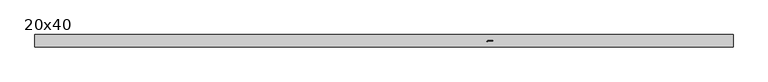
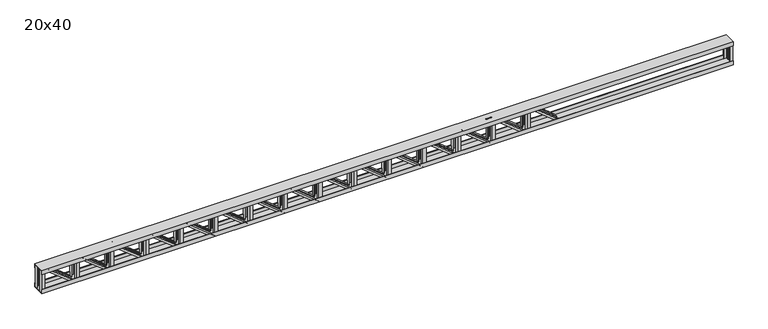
"""IFC4 building model written with IfcOpenShell, lengths in millimetres: beam geometry, Viga Treliçada - Igor Ramos.0001 : 20x40."""

from ifc_helpers import new_model, si_unit, frame, origin, place, context, project, spatial, polyline, outline, extrude, faceted_brep, source, transform, mapped, element, save


def beam_20x40_8779e05e(model_context):
    return source(origin(), model_context, "Body", "SolidModel", [
        extrude(outline(polyline([(580.3736978, 90.0), (630.3736978, 90.0), (630.3736978, 85.0), (585.3736978, 85.0), (585.3736978, 40.0), (580.3736978, 40.0), (580.3736978, 90.0)])), frame((0.0, 0.0, -190.0), z_axis=(0.0, 0.0, 1.0), x_axis=(1.0, 0.0, 0.0)), (0.0, 0.0, 1.0), 380.0),
        extrude(outline(polyline([(10.3741186, 90.0), (60.3741186, 90.0), (60.3741186, 85.0), (15.3741186, 85.0), (15.3741186, 40.0), (10.3741186, 40.0), (10.3741186, 90.0)])), frame((0.0, 0.0, -190.0), z_axis=(0.0, 0.0, 1.0), x_axis=(1.0, 0.0, 0.0)), (0.0, 0.0, 1.0), 380.0),
        extrude(outline(polyline([(-559.6254605, 90.0), (-509.6254605, 90.0), (-509.6254605, 85.0), (-554.6254605, 85.0), (-554.6254605, 40.0), (-559.6254605, 40.0), (-559.6254605, 90.0)])), frame((0.0, 0.0, -190.0), z_axis=(0.0, 0.0, 1.0), x_axis=(1.0, 0.0, 0.0)), (0.0, 0.0, 1.0), 380.0),
        extrude(outline(polyline([(-1129.6250396, 90.0), (-1079.6250396, 90.0), (-1079.6250396, 85.0), (-1124.6250396, 85.0), (-1124.6250396, 40.0), (-1129.6250396, 40.0), (-1129.6250396, 90.0)])), frame((0.0, 0.0, -190.0), z_axis=(0.0, 0.0, 1.0), x_axis=(1.0, 0.0, 0.0)), (0.0, 0.0, 1.0), 380.0),
        extrude(outline(polyline([(-1699.6246187, 90.0), (-1649.6246187, 90.0), (-1649.6246187, 85.0), (-1694.6246187, 85.0), (-1694.6246187, 40.0), (-1699.6246187, 40.0), (-1699.6246187, 90.0)])), frame((0.0, 0.0, -190.0), z_axis=(0.0, 0.0, 1.0), x_axis=(1.0, 0.0, 0.0)), (0.0, 0.0, 1.0), 380.0),
        extrude(outline(polyline([(-2269.6241978, 90.0), (-2219.6241978, 90.0), (-2219.6241978, 85.0), (-2264.6241978, 85.0), (-2264.6241978, 40.0), (-2269.6241978, 40.0), (-2269.6241978, 90.0)])), frame((0.0, 0.0, -190.0), z_axis=(0.0, 0.0, 1.0), x_axis=(1.0, 0.0, 0.0)), (0.0, 0.0, 1.0), 380.0),
        extrude(outline(polyline([(-2839.623777, 90.0), (-2789.623777, 90.0), (-2789.623777, 85.0), (-2834.623777, 85.0), (-2834.623777, 40.0), (-2839.623777, 40.0), (-2839.623777, 90.0)])), frame((0.0, 0.0, -190.0), z_axis=(0.0, 0.0, 1.0), x_axis=(1.0, 0.0, 0.0)), (0.0, 0.0, 1.0), 380.0),
        extrude(outline(polyline([(-3409.6233561, 90.0), (-3359.6233561, 90.0), (-3359.6233561, 85.0), (-3404.6233561, 85.0), (-3404.6233561, 40.0), (-3409.6233561, 40.0), (-3409.6233561, 90.0)])), frame((0.0, 0.0, -190.0), z_axis=(0.0, 0.0, 1.0), x_axis=(1.0, 0.0, 0.0)), (0.0, 0.0, 1.0), 380.0),
        extrude(outline(polyline([(-3979.6229352, 90.0), (-3929.6229352, 90.0), (-3929.6229352, 85.0), (-3974.6229352, 85.0), (-3974.6229352, 40.0), (-3979.6229352, 40.0), (-3979.6229352, 90.0)])), frame((0.0, 0.0, -190.0), z_axis=(0.0, 0.0, 1.0), x_axis=(1.0, 0.0, 0.0)), (0.0, 0.0, 1.0), 380.0),
        extrude(outline(polyline([(-4549.6225143, 90.0), (-4499.6225143, 90.0), (-4499.6225143, 85.0), (-4544.6225143, 85.0), (-4544.6225143, 40.0), (-4549.6225143, 40.0), (-4549.6225143, 90.0)])), frame((0.0, 0.0, -190.0), z_axis=(0.0, 0.0, 1.0), x_axis=(1.0, 0.0, 0.0)), (0.0, 0.0, 1.0), 380.0),
        extrude(outline(polyline([(580.3736978, -90.0), (580.3736978, -40.0), (585.3736978, -40.0), (585.3736978, -85.0), (630.3736978, -85.0), (630.3736978, -90.0), (580.3736978, -90.0)])), frame((0.0, 0.0, -190.0), z_axis=(0.0, 0.0, 1.0), x_axis=(1.0, 0.0, 0.0)), (0.0, 0.0, 1.0), 380.0),
        extrude(outline(polyline([(10.3741186, -90.0), (10.3741186, -40.0), (15.3741186, -40.0), (15.3741186, -85.0), (60.3741186, -85.0), (60.3741186, -90.0), (10.3741186, -90.0)])), frame((0.0, 0.0, -190.0), z_axis=(0.0, 0.0, 1.0), x_axis=(1.0, 0.0, 0.0)), (0.0, 0.0, 1.0), 380.0),
        extrude(outline(polyline([(-559.6254605, -90.0), (-559.6254605, -40.0), (-554.6254605, -40.0), (-554.6254605, -85.0), (-509.6254605, -85.0), (-509.6254605, -90.0), (-559.6254605, -90.0)])), frame((0.0, 0.0, -190.0), z_axis=(0.0, 0.0, 1.0), x_axis=(1.0, 0.0, 0.0)), (0.0, 0.0, 1.0), 380.0),
        extrude(outline(polyline([(-1129.6250396, -90.0), (-1129.6250396, -40.0), (-1124.6250396, -40.0), (-1124.6250396, -85.0), (-1079.6250396, -85.0), (-1079.6250396, -90.0), (-1129.6250396, -90.0)])), frame((0.0, 0.0, -190.0), z_axis=(0.0, 0.0, 1.0), x_axis=(1.0, 0.0, 0.0)), (0.0, 0.0, 1.0), 380.0),
        extrude(outline(polyline([(-1699.6246187, -90.0), (-1699.6246187, -40.0), (-1694.6246187, -40.0), (-1694.6246187, -85.0), (-1649.6246187, -85.0), (-1649.6246187, -90.0), (-1699.6246187, -90.0)])), frame((0.0, 0.0, -190.0), z_axis=(0.0, 0.0, 1.0), x_axis=(1.0, 0.0, 0.0)), (0.0, 0.0, 1.0), 380.0),
        extrude(outline(polyline([(-2269.6241978, -90.0), (-2269.6241978, -40.0), (-2264.6241978, -40.0), (-2264.6241978, -85.0), (-2219.6241978, -85.0), (-2219.6241978, -90.0), (-2269.6241978, -90.0)])), frame((0.0, 0.0, -190.0), z_axis=(0.0, 0.0, 1.0), x_axis=(1.0, 0.0, 0.0)), (0.0, 0.0, 1.0), 380.0),
        extrude(outline(polyline([(-2839.623777, -90.0), (-2839.623777, -40.0), (-2834.623777, -40.0), (-2834.623777, -85.0), (-2789.623777, -85.0), (-2789.623777, -90.0), (-2839.623777, -90.0)])), frame((0.0, 0.0, -190.0), z_axis=(0.0, 0.0, 1.0), x_axis=(1.0, 0.0, 0.0)), (0.0, 0.0, 1.0), 380.0),
        extrude(outline(polyline([(-3409.6233561, -90.0), (-3409.6233561, -40.0), (-3404.6233561, -40.0), (-3404.6233561, -85.0), (-3359.6233561, -85.0), (-3359.6233561, -90.0), (-3409.6233561, -90.0)])), frame((0.0, 0.0, -190.0), z_axis=(0.0, 0.0, 1.0), x_axis=(1.0, 0.0, 0.0)), (0.0, 0.0, 1.0), 380.0),
        extrude(outline(polyline([(-3979.6229352, -90.0), (-3979.6229352, -40.0), (-3974.6229352, -40.0), (-3974.6229352, -85.0), (-3929.6229352, -85.0), (-3929.6229352, -90.0), (-3979.6229352, -90.0)])), frame((0.0, 0.0, -190.0), z_axis=(0.0, 0.0, 1.0), x_axis=(1.0, 0.0, 0.0)), (0.0, 0.0, 1.0), 380.0),
        extrude(outline(polyline([(-4549.6225143, -90.0), (-4549.6225143, -40.0), (-4544.6225143, -40.0), (-4544.6225143, -85.0), (-4499.6225143, -85.0), (-4499.6225143, -90.0), (-4549.6225143, -90.0)])), frame((0.0, 0.0, -190.0), z_axis=(0.0, 0.0, 1.0), x_axis=(1.0, 0.0, 0.0)), (0.0, 0.0, 1.0), 380.0),
        faceted_brep([(1100.3732769, -90.0, -190.0), (1100.3732769, -85.0, -190.0), (1145.3732769, -85.0, -190.0), (1145.3732769, -40.0, -190.0), (1150.3732769, -40.0, -190.0), (1150.3732769, -90.0, -190.0), (630.3736978, -90.0, 190.0), (680.3736978, -90.0, 190.0), (680.3736978, -40.0, 190.0), (675.3736978, -40.0, 190.0), (675.3736978, -85.0, 190.0), (630.3736978, -85.0, 190.0)], [[[0, 1, 2, 3, 4, 5]], [[6, 7, 8, 9, 10, 11]], [[6, 11, 1, 0]], [[11, 10, 2, 1]], [[10, 9, 3, 2]], [[9, 8, 4, 3]], [[8, 7, 5, 4]], [[7, 6, 0, 5]]]),
        faceted_brep([(530.3736978, -90.0, -190.0), (530.3736978, -85.0, -190.0), (575.3736978, -85.0, -190.0), (575.3736978, -40.0, -190.0), (580.3736978, -40.0, -190.0), (580.3736978, -90.0, -190.0), (60.3741186, -90.0, 190.0), (110.3741186, -90.0, 190.0), (110.3741186, -40.0, 190.0), (105.3741186, -40.0, 190.0), (105.3741186, -85.0, 190.0), (60.3741186, -85.0, 190.0)], [[[0, 1, 2, 3, 4, 5]], [[6, 7, 8, 9, 10, 11]], [[6, 11, 1, 0]], [[11, 10, 2, 1]], [[10, 9, 3, 2]], [[9, 8, 4, 3]], [[8, 7, 5, 4]], [[7, 6, 0, 5]]]),
        faceted_brep([(-39.6258814, -90.0, -190.0), (-39.6258814, -85.0, -190.0), (5.3741186, -85.0, -190.0), (5.3741186, -40.0, -190.0), (10.3741186, -40.0, -190.0), (10.3741186, -90.0, -190.0), (-509.6254605, -90.0, 190.0), (-459.6254605, -90.0, 190.0), (-459.6254605, -40.0, 190.0), (-464.6254605, -40.0, 190.0), (-464.6254605, -85.0, 190.0), (-509.6254605, -85.0, 190.0)], [[[0, 1, 2, 3, 4, 5]], [[6, 7, 8, 9, 10, 11]], [[6, 11, 1, 0]], [[11, 10, 2, 1]], [[10, 9, 3, 2]], [[9, 8, 4, 3]], [[8, 7, 5, 4]], [[7, 6, 0, 5]]]),
        faceted_brep([(-609.6254605, -90.0, -190.0), (-609.6254605, -85.0, -190.0), (-564.6254605, -85.0, -190.0), (-564.6254605, -40.0, -190.0), (-559.6254605, -40.0, -190.0), (-559.6254605, -90.0, -190.0), (-1079.6250396, -90.0, 190.0), (-1029.6250396, -90.0, 190.0), (-1029.6250396, -40.0, 190.0), (-1034.6250396, -40.0, 190.0), (-1034.6250396, -85.0, 190.0), (-1079.6250396, -85.0, 190.0)], [[[0, 1, 2, 3, 4, 5]], [[6, 7, 8, 9, 10, 11]], [[6, 11, 1, 0]], [[11, 10, 2, 1]], [[10, 9, 3, 2]], [[9, 8, 4, 3]], [[8, 7, 5, 4]], [[7, 6, 0, 5]]]),
        faceted_brep([(-1179.6250396, -90.0, -190.0), (-1179.6250396, -85.0, -190.0), (-1134.6250396, -85.0, -190.0), (-1134.6250396, -40.0, -190.0), (-1129.6250396, -40.0, -190.0), (-1129.6250396, -90.0, -190.0), (-1649.6246187, -90.0, 190.0), (-1599.6246187, -90.0, 190.0), (-1599.6246187, -40.0, 190.0), (-1604.6246187, -40.0, 190.0), (-1604.6246187, -85.0, 190.0), (-1649.6246187, -85.0, 190.0)], [[[0, 1, 2, 3, 4, 5]], [[6, 7, 8, 9, 10, 11]], [[6, 11, 1, 0]], [[11, 10, 2, 1]], [[10, 9, 3, 2]], [[9, 8, 4, 3]], [[8, 7, 5, 4]], [[7, 6, 0, 5]]]),
        faceted_brep([(-1749.6246187, -90.0, -190.0), (-1749.6246187, -85.0, -190.0), (-1704.6246187, -85.0, -190.0), (-1704.6246187, -40.0, -190.0), (-1699.6246187, -40.0, -190.0), (-1699.6246187, -90.0, -190.0), (-2219.6241978, -90.0, 190.0), (-2169.6241978, -90.0, 190.0), (-2169.6241978, -40.0, 190.0), (-2174.6241978, -40.0, 190.0), (-2174.6241978, -85.0, 190.0), (-2219.6241978, -85.0, 190.0)], [[[0, 1, 2, 3, 4, 5]], [[6, 7, 8, 9, 10, 11]], [[6, 11, 1, 0]], [[11, 10, 2, 1]], [[10, 9, 3, 2]], [[9, 8, 4, 3]], [[8, 7, 5, 4]], [[7, 6, 0, 5]]]),
        faceted_brep([(-2319.6241978, -90.0, -190.0), (-2319.6241978, -85.0, -190.0), (-2274.6241978, -85.0, -190.0), (-2274.6241978, -40.0, -190.0), (-2269.6241978, -40.0, -190.0), (-2269.6241978, -90.0, -190.0), (-2789.623777, -90.0, 190.0), (-2739.623777, -90.0, 190.0), (-2739.623777, -40.0, 190.0), (-2744.623777, -40.0, 190.0), (-2744.623777, -85.0, 190.0), (-2789.623777, -85.0, 190.0)], [[[0, 1, 2, 3, 4, 5]], [[6, 7, 8, 9, 10, 11]], [[6, 11, 1, 0]], [[11, 10, 2, 1]], [[10, 9, 3, 2]], [[9, 8, 4, 3]], [[8, 7, 5, 4]], [[7, 6, 0, 5]]]),
        faceted_brep([(-2889.623777, -90.0, -190.0), (-2889.623777, -85.0, -190.0), (-2844.623777, -85.0, -190.0), (-2844.623777, -40.0, -190.0), (-2839.623777, -40.0, -190.0), (-2839.623777, -90.0, -190.0), (-3359.6233561, -90.0, 190.0), (-3309.6233561, -90.0, 190.0), (-3309.6233561, -40.0, 190.0), (-3314.6233561, -40.0, 190.0), (-3314.6233561, -85.0, 190.0), (-3359.6233561, -85.0, 190.0)], [[[0, 1, 2, 3, 4, 5]], [[6, 7, 8, 9, 10, 11]], [[6, 11, 1, 0]], [[11, 10, 2, 1]], [[10, 9, 3, 2]], [[9, 8, 4, 3]], [[8, 7, 5, 4]], [[7, 6, 0, 5]]]),
        faceted_brep([(-3459.6233561, -90.0, -190.0), (-3459.6233561, -85.0, -190.0), (-3414.6233561, -85.0, -190.0), (-3414.6233561, -40.0, -190.0), (-3409.6233561, -40.0, -190.0), (-3409.6233561, -90.0, -190.0), (-3929.6229352, -90.0, 190.0), (-3879.6229352, -90.0, 190.0), (-3879.6229352, -40.0, 190.0), (-3884.6229352, -40.0, 190.0), (-3884.6229352, -85.0, 190.0), (-3929.6229352, -85.0, 190.0)], [[[0, 1, 2, 3, 4, 5]], [[6, 7, 8, 9, 10, 11]], [[6, 11, 1, 0]], [[11, 10, 2, 1]], [[10, 9, 3, 2]], [[9, 8, 4, 3]], [[8, 7, 5, 4]], [[7, 6, 0, 5]]]),
        faceted_brep([(-4029.6229352, -90.0, -190.0), (-4029.6229352, -85.0, -190.0), (-3984.6229352, -85.0, -190.0), (-3984.6229352, -40.0, -190.0), (-3979.6229352, -40.0, -190.0), (-3979.6229352, -90.0, -190.0), (-4499.6225143, -90.0, 190.0), (-4449.6225143, -90.0, 190.0), (-4449.6225143, -40.0, 190.0), (-4454.6225143, -40.0, 190.0), (-4454.6225143, -85.0, 190.0), (-4499.6225143, -85.0, 190.0)], [[[0, 1, 2, 3, 4, 5]], [[6, 7, 8, 9, 10, 11]], [[6, 11, 1, 0]], [[11, 10, 2, 1]], [[10, 9, 3, 2]], [[9, 8, 4, 3]], [[8, 7, 5, 4]], [[7, 6, 0, 5]]]),
        faceted_brep([(1100.3732769, 90.0, -190.0), (1150.3732769, 90.0, -190.0), (1150.3732769, 40.0, -190.0), (1145.3732769, 40.0, -190.0), (1145.3732769, 85.0, -190.0), (1100.3732769, 85.0, -190.0), (630.3736978, 90.0, 190.0), (630.3736978, 85.0, 190.0), (675.3736978, 85.0, 190.0), (675.3736978, 40.0, 190.0), (680.3736978, 40.0, 190.0), (680.3736978, 90.0, 190.0)], [[[0, 1, 2, 3, 4, 5]], [[6, 7, 8, 9, 10, 11]], [[6, 0, 5, 7]], [[7, 5, 4, 8]], [[8, 4, 3, 9]], [[9, 3, 2, 10]], [[10, 2, 1, 11]], [[11, 1, 0, 6]]]),
        faceted_brep([(530.3736978, 90.0, -190.0), (580.3736978, 90.0, -190.0), (580.3736978, 40.0, -190.0), (575.3736978, 40.0, -190.0), (575.3736978, 85.0, -190.0), (530.3736978, 85.0, -190.0), (60.3741186, 90.0, 190.0), (60.3741186, 85.0, 190.0), (105.3741186, 85.0, 190.0), (105.3741186, 40.0, 190.0), (110.3741186, 40.0, 190.0), (110.3741186, 90.0, 190.0)], [[[0, 1, 2, 3, 4, 5]], [[6, 7, 8, 9, 10, 11]], [[6, 0, 5, 7]], [[7, 5, 4, 8]], [[8, 4, 3, 9]], [[9, 3, 2, 10]], [[10, 2, 1, 11]], [[11, 1, 0, 6]]]),
        faceted_brep([(-39.6258814, 90.0, -190.0), (10.3741186, 90.0, -190.0), (10.3741186, 40.0, -190.0), (5.3741186, 40.0, -190.0), (5.3741186, 85.0, -190.0), (-39.6258814, 85.0, -190.0), (-509.6254605, 90.0, 190.0), (-509.6254605, 85.0, 190.0), (-464.6254605, 85.0, 190.0), (-464.6254605, 40.0, 190.0), (-459.6254605, 40.0, 190.0), (-459.6254605, 90.0, 190.0)], [[[0, 1, 2, 3, 4, 5]], [[6, 7, 8, 9, 10, 11]], [[6, 0, 5, 7]], [[7, 5, 4, 8]], [[8, 4, 3, 9]], [[9, 3, 2, 10]], [[10, 2, 1, 11]], [[11, 1, 0, 6]]]),
        faceted_brep([(-609.6254605, 90.0, -190.0), (-559.6254605, 90.0, -190.0), (-559.6254605, 40.0, -190.0), (-564.6254605, 40.0, -190.0), (-564.6254605, 85.0, -190.0), (-609.6254605, 85.0, -190.0), (-1079.6250396, 90.0, 190.0), (-1079.6250396, 85.0, 190.0), (-1034.6250396, 85.0, 190.0), (-1034.6250396, 40.0, 190.0), (-1029.6250396, 40.0, 190.0), (-1029.6250396, 90.0, 190.0)], [[[0, 1, 2, 3, 4, 5]], [[6, 7, 8, 9, 10, 11]], [[6, 0, 5, 7]], [[7, 5, 4, 8]], [[8, 4, 3, 9]], [[9, 3, 2, 10]], [[10, 2, 1, 11]], [[11, 1, 0, 6]]]),
        faceted_brep([(-1179.6250396, 90.0, -190.0), (-1129.6250396, 90.0, -190.0), (-1129.6250396, 40.0, -190.0), (-1134.6250396, 40.0, -190.0), (-1134.6250396, 85.0, -190.0), (-1179.6250396, 85.0, -190.0), (-1649.6246187, 90.0, 190.0), (-1649.6246187, 85.0, 190.0), (-1604.6246187, 85.0, 190.0), (-1604.6246187, 40.0, 190.0), (-1599.6246187, 40.0, 190.0), (-1599.6246187, 90.0, 190.0)], [[[0, 1, 2, 3, 4, 5]], [[6, 7, 8, 9, 10, 11]], [[6, 0, 5, 7]], [[7, 5, 4, 8]], [[8, 4, 3, 9]], [[9, 3, 2, 10]], [[10, 2, 1, 11]], [[11, 1, 0, 6]]]),
        faceted_brep([(-1749.6246187, 90.0, -190.0), (-1699.6246187, 90.0, -190.0), (-1699.6246187, 40.0, -190.0), (-1704.6246187, 40.0, -190.0), (-1704.6246187, 85.0, -190.0), (-1749.6246187, 85.0, -190.0), (-2219.6241978, 90.0, 190.0), (-2219.6241978, 85.0, 190.0), (-2174.6241978, 85.0, 190.0), (-2174.6241978, 40.0, 190.0), (-2169.6241978, 40.0, 190.0), (-2169.6241978, 90.0, 190.0)], [[[0, 1, 2, 3, 4, 5]], [[6, 7, 8, 9, 10, 11]], [[6, 0, 5, 7]], [[7, 5, 4, 8]], [[8, 4, 3, 9]], [[9, 3, 2, 10]], [[10, 2, 1, 11]], [[11, 1, 0, 6]]]),
        faceted_brep([(-2319.6241978, 90.0, -190.0), (-2269.6241978, 90.0, -190.0), (-2269.6241978, 40.0, -190.0), (-2274.6241978, 40.0, -190.0), (-2274.6241978, 85.0, -190.0), (-2319.6241978, 85.0, -190.0), (-2789.623777, 90.0, 190.0), (-2789.623777, 85.0, 190.0), (-2744.623777, 85.0, 190.0), (-2744.623777, 40.0, 190.0), (-2739.623777, 40.0, 190.0), (-2739.623777, 90.0, 190.0)], [[[0, 1, 2, 3, 4, 5]], [[6, 7, 8, 9, 10, 11]], [[6, 0, 5, 7]], [[7, 5, 4, 8]], [[8, 4, 3, 9]], [[9, 3, 2, 10]], [[10, 2, 1, 11]], [[11, 1, 0, 6]]]),
        faceted_brep([(-2889.623777, 90.0, -190.0), (-2839.623777, 90.0, -190.0), (-2839.623777, 40.0, -190.0), (-2844.623777, 40.0, -190.0), (-2844.623777, 85.0, -190.0), (-2889.623777, 85.0, -190.0), (-3359.6233561, 90.0, 190.0), (-3359.6233561, 85.0, 190.0), (-3314.6233561, 85.0, 190.0), (-3314.6233561, 40.0, 190.0), (-3309.6233561, 40.0, 190.0), (-3309.6233561, 90.0, 190.0)], [[[0, 1, 2, 3, 4, 5]], [[6, 7, 8, 9, 10, 11]], [[6, 0, 5, 7]], [[7, 5, 4, 8]], [[8, 4, 3, 9]], [[9, 3, 2, 10]], [[10, 2, 1, 11]], [[11, 1, 0, 6]]]),
        faceted_brep([(-3459.6233561, 90.0, -190.0), (-3409.6233561, 90.0, -190.0), (-3409.6233561, 40.0, -190.0), (-3414.6233561, 40.0, -190.0), (-3414.6233561, 85.0, -190.0), (-3459.6233561, 85.0, -190.0), (-3929.6229352, 90.0, 190.0), (-3929.6229352, 85.0, 190.0), (-3884.6229352, 85.0, 190.0), (-3884.6229352, 40.0, 190.0), (-3879.6229352, 40.0, 190.0), (-3879.6229352, 90.0, 190.0)], [[[0, 1, 2, 3, 4, 5]], [[6, 7, 8, 9, 10, 11]], [[6, 0, 5, 7]], [[7, 5, 4, 8]], [[8, 4, 3, 9]], [[9, 3, 2, 10]], [[10, 2, 1, 11]], [[11, 1, 0, 6]]]),
        faceted_brep([(-4029.6229352, 90.0, -190.0), (-3979.6229352, 90.0, -190.0), (-3979.6229352, 40.0, -190.0), (-3984.6229352, 40.0, -190.0), (-3984.6229352, 85.0, -190.0), (-4029.6229352, 85.0, -190.0), (-4499.6225143, 90.0, 190.0), (-4499.6225143, 85.0, 190.0), (-4454.6225143, 85.0, 190.0), (-4454.6225143, 40.0, 190.0), (-4449.6225143, 40.0, 190.0), (-4449.6225143, 90.0, 190.0)], [[[0, 1, 2, 3, 4, 5]], [[6, 7, 8, 9, 10, 11]], [[6, 0, 5, 7]], [[7, 5, 4, 8]], [[8, 4, 3, 9]], [[9, 3, 2, 10]], [[10, 2, 1, 11]], [[11, 1, 0, 6]]]),
        extrude(outline(polyline([(-5119.6220935, 90.0), (-5069.6220935, 90.0), (-5069.6220935, 85.0), (-5114.6220935, 85.0), (-5114.6220935, 40.0), (-5119.6220935, 40.0), (-5119.6220935, 90.0)])), frame((0.0, 0.0, -190.0), z_axis=(0.0, 0.0, 1.0), x_axis=(1.0, 0.0, 0.0)), (0.0, 0.0, 1.0), 380.0),
        extrude(outline(polyline([(-5689.6216726, 90.0), (-5639.6216726, 90.0), (-5639.6216726, 85.0), (-5684.6216726, 85.0), (-5684.6216726, 40.0), (-5689.6216726, 40.0), (-5689.6216726, 90.0)])), frame((0.0, 0.0, -190.0), z_axis=(0.0, 0.0, 1.0), x_axis=(1.0, 0.0, 0.0)), (0.0, 0.0, 1.0), 380.0),
        extrude(outline(polyline([(-5119.6220935, -90.0), (-5119.6220935, -40.0), (-5114.6220935, -40.0), (-5114.6220935, -85.0), (-5069.6220935, -85.0), (-5069.6220935, -90.0), (-5119.6220935, -90.0)])), frame((0.0, 0.0, -190.0), z_axis=(0.0, 0.0, 1.0), x_axis=(1.0, 0.0, 0.0)), (0.0, 0.0, 1.0), 380.0),
        extrude(outline(polyline([(-5689.6216726, -90.0), (-5689.6216726, -40.0), (-5684.6216726, -40.0), (-5684.6216726, -85.0), (-5639.6216726, -85.0), (-5639.6216726, -90.0), (-5689.6216726, -90.0)])), frame((0.0, 0.0, -190.0), z_axis=(0.0, 0.0, 1.0), x_axis=(1.0, 0.0, 0.0)), (0.0, 0.0, 1.0), 380.0),
        faceted_brep([(-4599.6225143, 90.0, -190.0), (-4549.6225143, 90.0, -190.0), (-4549.6225143, 40.0, -190.0), (-4554.6225143, 40.0, -190.0), (-4554.6225143, 85.0, -190.0), (-4599.6225143, 85.0, -190.0), (-5069.6220935, 90.0, 190.0), (-5069.6220935, 85.0, 190.0), (-5024.6220935, 85.0, 190.0), (-5024.6220935, 40.0, 190.0), (-5019.6220935, 40.0, 190.0), (-5019.6220935, 90.0, 190.0)], [[[0, 1, 2, 3, 4, 5]], [[6, 7, 8, 9, 10, 11]], [[6, 0, 5, 7]], [[7, 5, 4, 8]], [[8, 4, 3, 9]], [[9, 3, 2, 10]], [[10, 2, 1, 11]], [[11, 1, 0, 6]]]),
        faceted_brep([(-5169.6220935, 90.0, -190.0), (-5119.6220935, 90.0, -190.0), (-5119.6220935, 40.0, -190.0), (-5124.6220935, 40.0, -190.0), (-5124.6220935, 85.0, -190.0), (-5169.6220935, 85.0, -190.0), (-5639.6216726, 90.0, 190.0), (-5639.6216726, 85.0, 190.0), (-5594.6216726, 85.0, 190.0), (-5594.6216726, 40.0, 190.0), (-5589.6216726, 40.0, 190.0), (-5589.6216726, 90.0, 190.0)], [[[0, 1, 2, 3, 4, 5]], [[6, 7, 8, 9, 10, 11]], [[6, 0, 5, 7]], [[7, 5, 4, 8]], [[8, 4, 3, 9]], [[9, 3, 2, 10]], [[10, 2, 1, 11]], [[11, 1, 0, 6]]]),
        faceted_brep([(-5739.6216726, 90.0, -190.0), (-5689.6216726, 90.0, -190.0), (-5689.6216726, 40.0, -190.0), (-5694.6216726, 40.0, -190.0), (-5694.6216726, 85.0, -190.0), (-5739.6216726, 85.0, -190.0), (-6209.6212517, 90.0, 190.0), (-6209.6212517, 85.0, 190.0), (-6164.6212517, 85.0, 190.0), (-6164.6212517, 40.0, 190.0), (-6159.6212517, 40.0, 190.0), (-6159.6212517, 90.0, 190.0)], [[[0, 1, 2, 3, 4, 5]], [[6, 7, 8, 9, 10, 11]], [[6, 0, 5, 7]], [[7, 5, 4, 8]], [[8, 4, 3, 9]], [[9, 3, 2, 10]], [[10, 2, 1, 11]], [[11, 1, 0, 6]]]),
        faceted_brep([(-4599.6225143, -90.0, -190.0), (-4599.6225143, -85.0, -190.0), (-4554.6225143, -85.0, -190.0), (-4554.6225143, -40.0, -190.0), (-4549.6225143, -40.0, -190.0), (-4549.6225143, -90.0, -190.0), (-5069.6220935, -90.0, 190.0), (-5019.6220935, -90.0, 190.0), (-5019.6220935, -40.0, 190.0), (-5024.6220935, -40.0, 190.0), (-5024.6220935, -85.0, 190.0), (-5069.6220935, -85.0, 190.0)], [[[0, 1, 2, 3, 4, 5]], [[6, 7, 8, 9, 10, 11]], [[6, 11, 1, 0]], [[11, 10, 2, 1]], [[10, 9, 3, 2]], [[9, 8, 4, 3]], [[8, 7, 5, 4]], [[7, 6, 0, 5]]]),
        faceted_brep([(-5169.6220935, -90.0, -190.0), (-5169.6220935, -85.0, -190.0), (-5124.6220935, -85.0, -190.0), (-5124.6220935, -40.0, -190.0), (-5119.6220935, -40.0, -190.0), (-5119.6220935, -90.0, -190.0), (-5639.6216726, -90.0, 190.0), (-5589.6216726, -90.0, 190.0), (-5589.6216726, -40.0, 190.0), (-5594.6216726, -40.0, 190.0), (-5594.6216726, -85.0, 190.0), (-5639.6216726, -85.0, 190.0)], [[[0, 1, 2, 3, 4, 5]], [[6, 7, 8, 9, 10, 11]], [[6, 11, 1, 0]], [[11, 10, 2, 1]], [[10, 9, 3, 2]], [[9, 8, 4, 3]], [[8, 7, 5, 4]], [[7, 6, 0, 5]]]),
        faceted_brep([(-5739.6216726, -90.0, -190.0), (-5739.6216726, -85.0, -190.0), (-5694.6216726, -85.0, -190.0), (-5694.6216726, -40.0, -190.0), (-5689.6216726, -40.0, -190.0), (-5689.6216726, -90.0, -190.0), (-6209.6212517, -90.0, 190.0), (-6159.6212517, -90.0, 190.0), (-6159.6212517, -40.0, 190.0), (-6164.6212517, -40.0, 190.0), (-6164.6212517, -85.0, 190.0), (-6209.6212517, -85.0, 190.0)], [[[0, 1, 2, 3, 4, 5]], [[6, 7, 8, 9, 10, 11]], [[6, 11, 1, 0]], [[11, 10, 2, 1]], [[10, 9, 3, 2]], [[9, 8, 4, 3]], [[8, 7, 5, 4]], [[7, 6, 0, 5]]]),
        extrude(outline(polyline([(-6259.6212517, 90.0), (-6209.6212517, 90.0), (-6209.6212517, 85.0), (-6254.6212517, 85.0), (-6254.6212517, 40.0), (-6259.6212517, 40.0), (-6259.6212517, 90.0)])), frame((0.0, 0.0, -190.0), z_axis=(0.0, 0.0, 1.0), x_axis=(1.0, 0.0, 0.0)), (0.0, 0.0, 1.0), 380.0),
        extrude(outline(polyline([(-6259.6212517, -90.0), (-6259.6212517, -40.0), (-6254.6212517, -40.0), (-6254.6212517, -85.0), (-6209.6212517, -85.0), (-6209.6212517, -90.0), (-6259.6212517, -90.0)])), frame((0.0, 0.0, -190.0), z_axis=(0.0, 0.0, 1.0), x_axis=(1.0, 0.0, 0.0)), (0.0, 0.0, 1.0), 380.0),
        extrude(outline(polyline([(3962.20392, 90.0), (3962.20392, 40.0), (3957.20392, 40.0), (3957.20392, 85.0), (3912.20392, 85.0), (3912.20392, 90.0), (3962.20392, 90.0)])), frame((0.0, 0.0, -190.0), z_axis=(0.0, 0.0, 1.0), x_axis=(1.0, 0.0, 0.0)), (0.0, 0.0, 1.0), 380.0),
        extrude(outline(polyline([(3962.20392, -90.0), (3912.20392, -90.0), (3912.20392, -85.0), (3957.20392, -85.0), (3957.20392, -40.0), (3962.20392, -40.0), (3962.20392, -90.0)])), frame((0.0, 0.0, -190.0), z_axis=(0.0, 0.0, 1.0), x_axis=(1.0, 0.0, 0.0)), (0.0, 0.0, 1.0), 380.0),
        extrude(outline(polyline([(-6829.6208308, 90.0), (-6779.6208308, 90.0), (-6779.6208308, 85.0), (-6824.6208308, 85.0), (-6824.6208308, 40.0), (-6829.6208308, 40.0), (-6829.6208308, 90.0)])), frame((0.0, 0.0, -190.0), z_axis=(0.0, 0.0, 1.0), x_axis=(1.0, 0.0, 0.0)), (0.0, 0.0, 1.0), 380.0),
        extrude(outline(polyline([(-6829.6208308, -90.0), (-6829.6208308, -40.0), (-6824.6208308, -40.0), (-6824.6208308, -85.0), (-6779.6208308, -85.0), (-6779.6208308, -90.0), (-6829.6208308, -90.0)])), frame((0.0, 0.0, -190.0), z_axis=(0.0, 0.0, 1.0), x_axis=(1.0, 0.0, 0.0)), (0.0, 0.0, 1.0), 380.0),
        faceted_brep([(-6309.6212517, -90.0, -190.0), (-6309.6212517, -85.0, -190.0), (-6264.6212517, -85.0, -190.0), (-6264.6212517, -40.0, -190.0), (-6259.6212517, -40.0, -190.0), (-6259.6212517, -90.0, -190.0), (-6779.6208308, -90.0, 190.0), (-6729.6208308, -90.0, 190.0), (-6729.6208308, -40.0, 190.0), (-6734.6208308, -40.0, 190.0), (-6734.6208308, -85.0, 190.0), (-6779.6208308, -85.0, 190.0)], [[[0, 1, 2, 3, 4, 5]], [[6, 7, 8, 9, 10, 11]], [[6, 11, 1, 0]], [[11, 10, 2, 1]], [[10, 9, 3, 2]], [[9, 8, 4, 3]], [[8, 7, 5, 4]], [[7, 6, 0, 5]]]),
        faceted_brep([(-6309.6212517, 90.0, -190.0), (-6259.6212517, 90.0, -190.0), (-6259.6212517, 40.0, -190.0), (-6264.6212517, 40.0, -190.0), (-6264.6212517, 85.0, -190.0), (-6309.6212517, 85.0, -190.0), (-6779.6208308, 90.0, 190.0), (-6779.6208308, 85.0, 190.0), (-6734.6208308, 85.0, 190.0), (-6734.6208308, 40.0, 190.0), (-6729.6208308, 40.0, 190.0), (-6729.6208308, 90.0, 190.0)], [[[0, 1, 2, 3, 4, 5]], [[6, 7, 8, 9, 10, 11]], [[6, 0, 5, 7]], [[7, 5, 4, 8]], [[8, 4, 3, 9]], [[9, 3, 2, 10]], [[10, 2, 1, 11]], [[11, 1, 0, 6]]]),
        faceted_brep([(-6879.6208308, 90.0, -190.0), (-6829.6208308, 90.0, -190.0), (-6829.6208308, 40.0, -190.0), (-6834.6208308, 40.0, -190.0), (-6834.6208308, 85.0, -190.0), (-6879.6208308, 85.0, -190.0), (-7349.6204099, 90.0, 190.0), (-7349.6204099, 85.0, 190.0), (-7304.6204099, 85.0, 190.0), (-7304.6204099, 40.0, 190.0), (-7299.6204099, 40.0, 190.0), (-7299.6204099, 90.0, 190.0)], [[[0, 1, 2, 3, 4, 5]], [[6, 7, 8, 9, 10, 11]], [[6, 0, 5, 7]], [[7, 5, 4, 8]], [[8, 4, 3, 9]], [[9, 3, 2, 10]], [[10, 2, 1, 11]], [[11, 1, 0, 6]]]),
        extrude(outline(polyline([(-7399.6204099, 90.0), (-7349.6204099, 90.0), (-7349.6204099, 85.0), (-7394.6204099, 85.0), (-7394.6204099, 40.0), (-7399.6204099, 40.0), (-7399.6204099, 90.0)])), frame((0.0, 0.0, -190.0), z_axis=(0.0, 0.0, 1.0), x_axis=(1.0, 0.0, 0.0)), (0.0, 0.0, 1.0), 380.0),
        extrude(outline(polyline([(-7399.6204099, -90.0), (-7399.6204099, -40.0), (-7394.6204099, -40.0), (-7394.6204099, -85.0), (-7349.6204099, -85.0), (-7349.6204099, -90.0), (-7399.6204099, -90.0)])), frame((0.0, 0.0, -190.0), z_axis=(0.0, 0.0, 1.0), x_axis=(1.0, 0.0, 0.0)), (0.0, 0.0, 1.0), 380.0),
        faceted_brep([(-6879.6208308, -90.0, -190.0), (-6879.6208308, -85.0, -190.0), (-6834.6208308, -85.0, -190.0), (-6834.6208308, -40.0, -190.0), (-6829.6208308, -40.0, -190.0), (-6829.6208308, -90.0, -190.0), (-7349.6204099, -90.0, 190.0), (-7299.6204099, -90.0, 190.0), (-7299.6204099, -40.0, 190.0), (-7304.6204099, -40.0, 190.0), (-7304.6204099, -85.0, 190.0), (-7349.6204099, -85.0, 190.0)], [[[0, 1, 2, 3, 4, 5]], [[6, 7, 8, 9, 10, 11]], [[6, 11, 1, 0]], [[11, 10, 2, 1]], [[10, 9, 3, 2]], [[9, 8, 4, 3]], [[8, 7, 5, 4]], [[7, 6, 0, 5]]]),
        extrude(outline(polyline([(-100.0, 200.0), (100.0, 200.0), (100.0, 130.0), (90.0, 130.0), (90.0, 190.0), (-90.0, 190.0), (-90.0, 130.0), (-100.0, 130.0), (-100.0, 200.0)])), frame((-7399.6204099, 0.0, 0.0), z_axis=(1.0, 0.0, 0.0), x_axis=(0.0, 1.0, 0.0)), (0.0, 0.0, 1.0), 11361.8243299),
        extrude(outline(polyline([(100.0, -130.0), (100.0, -200.0), (-100.0, -200.0), (-100.0, -130.0), (-90.0, -130.0), (-90.0, -190.0), (90.0, -190.0), (90.0, -130.0), (100.0, -130.0)])), frame((-7399.6204099, 0.0, 0.0), z_axis=(1.0, 0.0, 0.0), x_axis=(0.0, 1.0, 0.0)), (0.0, 0.0, 1.0), 11361.8243299),
        extrude(outline(polyline([(-40.6337926, -4.4248778), (-42.2708675, -4.6848478), (-43.3708347, -5.0), (-44.5480571, -4.6394756), (-45.476346, -3.5309246), (-45.8331915, -1.8877183), (-45.2801422, 0.3195737), (-43.9042636, 1.9799477), (-42.3064294, 2.5342233), (-41.1807105, 2.219071), (-40.2561005, 1.258899), (-40.0255611, 2.3772603), (-38.7698572, 2.3772603), (-39.809737, -2.2286223), (-40.0255611, -3.290575), (-38.5859162, -3.3469836), (-37.3437013, -1.9551634), (-36.8863014, -0.1513153), (-37.4749126, 1.8744882), (-39.2321622, 3.3815781), (-41.8134676, 3.9468901), (-44.7589761, 3.2295202), (-46.8264729, 1.1730599), (-47.5597843, -1.6964197), (-46.8338305, -4.461666), (-44.7332243, -6.1735436), (-41.6883877, -6.7265928), (-38.6938283, -6.1772224), (-36.8863014, -4.843037), (-35.6305975, -4.843037), (-36.8188564, -6.3366379), (-38.8238132, -7.539612), (-41.6246215, -7.9822967), (-44.4070356, -7.5911155), (-46.5787657, -6.4163457), (-47.9301189, -4.6100451), (-48.5015622, -1.8141419), (-47.8197543, 1.3717162), (-45.462857, 4.215444), (-41.757059, 5.202594), (-38.7257114, 4.5109758), (-36.6042585, 2.4483841), (-35.9445235, -0.1145271), (-37.3130445, -3.6241213), (-40.6337926, -4.4248778)]), holes=[polyline([(-44.5774876, -1.9073387), (-44.1372555, -3.2611444), (-43.1280326, -3.7442961), (-42.3272761, -3.5309246), (-41.5240671, -2.8981675), (-40.8974414, -1.8337623), (-40.653413, -0.5388177), (-41.110813, 0.8014991), (-42.2254954, 1.2785194), (-43.0421934, 1.0712792), (-43.7840888, 0.4066391), (-44.3604373, -0.7055908), (-44.5774876, -1.9073387)])]), frame((0.0, 0.0, 200.0), z_axis=(0.0, 0.0, 1.0), x_axis=(1.0, 0.0, 0.0)), (0.0, 0.0, 1.0), 1.0),
        extrude(outline(polyline([(-34.2179306, 3.7899271), (-34.2179306, 5.045631), (-32.9622268, 5.045631), (-32.9622268, 3.7899271), (-34.2179306, 3.7899271)])), frame((0.0, 0.0, 200.0), z_axis=(0.0, 0.0, 1.0), x_axis=(1.0, 0.0, 0.0)), (0.0, 0.0, 1.0), 1.0),
        extrude(outline(polyline([(-34.2179306, -5.0), (-34.2179306, 2.3772603), (-32.9622268, 2.3772603), (-32.9622268, -5.0), (-34.2179306, -5.0)])), frame((0.0, 0.0, 200.0), z_axis=(0.0, 0.0, 1.0), x_axis=(1.0, 0.0, 0.0)), (0.0, 0.0, 1.0), 1.0),
        extrude(outline(polyline([(-31.3925969, -5.6278519), (-30.136893, -5.7848149), (-28.5108546, -6.7265928), (-27.2257202, -6.4102143), (-26.6125835, -5.5223924), (-26.5267444, -4.0582221), (-28.4887817, -5.0), (-30.7488034, -3.9037117), (-31.5495599, -1.2745817), (-31.1902618, 0.6715141), (-30.1503821, 2.048619), (-28.5500954, 2.5342233), (-26.5267444, 1.4354824), (-26.5267444, 2.3772603), (-25.2710405, 2.3772603), (-25.2710405, -3.9920033), (-25.6143971, -6.431061), (-26.7021015, -7.5653638), (-28.5353801, -7.9822967), (-30.6237236, -7.3949118), (-31.3925969, -5.6278519)]), holes=[polyline([(-30.293856, -1.1887425), (-29.7579746, -3.1323857), (-28.4127528, -3.7442961), (-27.0699835, -3.1360646), (-26.5267444, -1.2255307), (-27.085925, 0.6469886), (-28.4323731, 1.2785194), (-29.7506169, 0.6567988), (-30.293856, -1.1887425)])]), frame((0.0, 0.0, 200.0), z_axis=(0.0, 0.0, 1.0), x_axis=(1.0, 0.0, 0.0)), (0.0, 0.0, 1.0), 1.0),
        extrude(outline(polyline([(-23.7014107, -1.3113699), (-22.6149325, 1.7175252), (-20.4027355, 2.5342233), (-18.0298966, 1.5397156), (-17.1089653, -1.2083629), (-17.5160881, -3.4426329), (-18.7018944, -4.7069207), (-20.4027355, -5.156963), (-22.7902896, -4.1661341), (-23.7014107, -1.3113699)]), holes=[polyline([(-22.4457068, -1.3089173), (-21.8644532, -3.2550131), (-20.4027355, -3.9012591), (-18.9459228, -3.2513342), (-18.3646692, -1.2696766), (-18.9496016, 0.6322733), (-20.4027355, 1.2785194), (-21.8644532, 0.6347259), (-22.4457068, -1.3089173)])]), frame((0.0, 0.0, 200.0), z_axis=(0.0, 0.0, 1.0), x_axis=(1.0, 0.0, 0.0)), (0.0, 0.0, 1.0), 1.0),
        extrude(outline(polyline([(-15.6962985, -5.0), (-15.6962985, 2.3772603), (-14.5975576, 2.3772603), (-14.5975576, 1.285877), (-13.8176477, 2.2914211), (-13.0328328, 2.5342233), (-11.7722238, 2.1467209), (-12.1916093, 1.021002), (-13.0745261, 1.2785194), (-14.2370332, 0.3440991), (-14.4405946, -1.1225238), (-14.4405946, -5.0), (-15.6962985, -5.0)])), frame((0.0, 0.0, 200.0), z_axis=(0.0, 0.0, 1.0), x_axis=(1.0, 0.0, 0.0)), (0.0, 0.0, 1.0), 1.0),
        extrude(outline(polyline([(-10.9874089, -5.0), (-10.9874089, 2.3772603), (-9.888668, 2.3772603), (-9.888668, 1.285877), (-9.1087582, 2.2914211), (-8.3239433, 2.5342233), (-7.0633343, 2.1467209), (-7.4827198, 1.021002), (-8.3656366, 1.2785194), (-9.5281437, 0.3440991), (-9.731705, -1.1225238), (-9.731705, -5.0), (-10.9874089, -5.0)])), frame((0.0, 0.0, 200.0), z_axis=(0.0, 0.0, 1.0), x_axis=(1.0, 0.0, 0.0)), (0.0, 0.0, 1.0), 1.0),
        extrude(outline(polyline([(-1.5696298, -4.0582221), (-2.7873193, -4.9092558), (-4.1325411, -5.156963), (-5.9560095, -4.5609942), (-6.5924454, -3.0379627), (-6.3520958, -2.0446813), (-5.720565, -1.3236326), (-4.8413271, -0.9116048), (-3.7548489, -0.7227587), (-1.5769875, -0.2911105), (-1.9154389, 0.9155425), (-3.3035803, 1.2785194), (-4.5739995, 1.0369435), (-5.1797785, 0.1797785), (-6.4354824, 0.3367415), (-5.8922433, 1.5630148), (-4.7984075, 2.281611), (-3.1417122, 2.5342233), (-1.6199071, 2.3110415), (-0.7602895, 1.7506346), (-0.3752396, 0.8983747), (-0.313926, -0.2003662), (-0.313926, -1.7626384), (-0.2501598, -3.9441787), (0.0, -5.0), (-1.2557039, -5.0), (-1.5696298, -4.0582221)]), holes=[polyline([(-1.5733087, -1.724624), (-3.5954334, -1.9318642), (-4.6757802, -2.1354255), (-3.8652135, -3.9012591), (-2.5947943, -3.6008221), (-1.7756438, -2.8736421), (-1.5733087, -1.724624)])]), frame((0.0, 0.0, 200.0), z_axis=(0.0, 0.0, 1.0), x_axis=(1.0, 0.0, 0.0)), (0.0, 0.0, 1.0), 1.0),
        extrude(outline(polyline([(1.4126669, -5.0), (1.4126669, 2.3772603), (2.6683707, 2.3772603), (2.6683707, 1.1632497), (3.5316672, 2.1577574), (4.760393, 2.5342233), (6.0185494, 2.1503997), (6.7101676, 1.074958), (8.9272697, 2.5342233), (10.5692497, 1.927218), (11.1443719, 0.0571512), (11.1443719, -5.0), (9.888668, -5.0), (9.888668, -0.4824091), (9.7721721, 0.5660546), (7.3981069, 0.7757473), (6.9063713, -0.8355758), (6.9063713, -5.0), (5.6506674, -5.0), (5.6506674, -0.3426139), (5.3600407, 0.8738492), (4.4072263, 1.2785194), (3.4777111, 1.0087393), (2.8596694, 0.2190192), (2.6683707, -1.2794868), (2.6683707, -5.0), (1.4126669, -5.0)])), frame((0.0, 0.0, 200.0), z_axis=(0.0, 0.0, 1.0), x_axis=(1.0, 0.0, 0.0)), (0.0, 0.0, 1.0), 1.0),
        extrude(outline(polyline([(12.7140018, -1.3113699), (13.8004799, 1.7175252), (16.012677, 2.5342233), (18.3855158, 1.5397156), (19.3064471, -1.2083629), (18.8993244, -3.4426329), (17.7135181, -4.7069207), (16.012677, -5.156963), (13.6251228, -4.1661341), (12.7140018, -1.3113699)]), holes=[polyline([(13.9697056, -1.3089173), (14.5509592, -3.2550131), (16.012677, -3.9012591), (17.4694897, -3.2513342), (18.0507432, -1.2696766), (17.4658109, 0.6322733), (16.012677, 1.2785194), (14.5509592, 0.6347259), (13.9697056, -1.3089173)])]), frame((0.0, 0.0, 200.0), z_axis=(0.0, 0.0, 1.0), x_axis=(1.0, 0.0, 0.0)), (0.0, 0.0, 1.0), 1.0),
        extrude(outline(polyline([(20.248225, -2.8025182), (21.5039289, -2.6455552), (22.0851824, -3.577523), (23.4169153, -3.9012591), (24.6971446, -3.604501), (25.1140775, -2.9079777), (23.4022, -1.9858202), (21.5112865, -1.3714573), (20.6860046, -0.6540874), (20.405188, 0.3588144), (20.6308223, 1.2944609), (21.2464115, 2.0093783), (22.0447154, 2.3809391), (23.1250622, 2.5342233), (24.6529988, 2.2877423), (25.6242072, 1.6206496), (26.0558554, 0.4937045), (24.8001516, 0.3367415), (24.3280363, 1.0295859), (23.2231641, 1.2785194), (22.0214162, 1.0406224), (23.3605067, -0.423548), (25.2035955, -1.0146117), (26.0595343, -1.684157), (26.3697814, -2.7755402), (26.0055782, -3.9772881), (24.954662, -4.8491684), (23.3997474, -5.156963), (21.2096233, -4.5634467), (20.248225, -2.8025182)])), frame((0.0, 0.0, 200.0), z_axis=(0.0, 0.0, 1.0), x_axis=(1.0, 0.0, 0.0)), (0.0, 0.0, 1.0), 1.0),
        extrude(outline(polyline([(29.0381522, -5.0), (27.7824483, -5.0), (27.7824483, 5.045631), (29.0381522, 5.045631), (29.0381522, 1.3202127), (31.0099996, 2.5342233), (32.2681561, 2.2607643), (33.2442696, 1.4918909), (33.8439173, 0.2962745), (34.0609677, -1.2010053), (33.1621093, -4.1244409), (31.002642, -5.156963), (29.0381522, -3.8252302), (29.0381522, -5.0)]), holes=[polyline([(29.0381522, -1.2598664), (29.3815087, -3.0158898), (30.89473, -3.9012591), (32.2387255, -3.2488817), (32.8052638, -1.3040122), (32.2620247, 0.6482149), (30.948686, 1.2785194), (29.6046904, 0.626142), (29.0381522, -1.2598664)])]), frame((0.0, 0.0, 200.0), z_axis=(0.0, 0.0, 1.0), x_axis=(1.0, 0.0, 0.0)), (0.0, 0.0, 1.0), 1.0),
        extrude(outline(polyline([(35.4736345, 3.7899271), (35.4736345, 5.045631), (36.7293384, 5.045631), (36.7293384, 3.7899271), (35.4736345, 3.7899271)])), frame((0.0, 0.0, 200.0), z_axis=(0.0, 0.0, 1.0), x_axis=(1.0, 0.0, 0.0)), (0.0, 0.0, 1.0), 1.0),
        extrude(outline(polyline([(35.4736345, -5.0), (35.4736345, 2.3772603), (36.7293384, 2.3772603), (36.7293384, -5.0), (35.4736345, -5.0)])), frame((0.0, 0.0, 200.0), z_axis=(0.0, 0.0, 1.0), x_axis=(1.0, 0.0, 0.0)), (0.0, 0.0, 1.0), 1.0),
        extrude(outline(polyline([(38.6128942, -5.0), (38.6128942, 2.3772603), (39.8685981, 2.3772603), (39.8685981, 1.1632497), (40.7318945, 2.1577574), (41.9606204, 2.5342233), (43.2187768, 2.1503997), (43.9103949, 1.074958), (46.1274971, 2.5342233), (47.7694771, 1.927218), (48.3445993, 0.0571512), (48.3445993, -5.0), (47.0888954, -5.0), (47.0888954, -0.4824091), (46.9723994, 0.5660546), (44.5983343, 0.7757473), (44.1065987, -0.8355758), (44.1065987, -5.0), (42.8508948, -5.0), (42.8508948, -0.3426139), (42.560268, 0.8738492), (41.6074537, 1.2785194), (40.6779385, 1.0087393), (40.0598967, 0.2190192), (39.8685981, -1.2794868), (39.8685981, -5.0), (38.6128942, -5.0)])), frame((0.0, 0.0, 200.0), z_axis=(0.0, 0.0, 1.0), x_axis=(1.0, 0.0, 0.0)), (0.0, 0.0, 1.0), 1.0),
    ])


if __name__ == "__main__":
    model = new_model("IFC4")
    model_context = context("Model", 3, world=origin())
    ifc_project = project(units=[si_unit("LENGTHUNIT", "METRE", prefix="MILLI")], contexts=[model_context])
    site = spatial("IfcSite", under=ifc_project)
    building = spatial("IfcBuilding", under=site)
    placement = place(None, origin())
    beam_20x40_shape = beam_20x40_8779e05e(model_context)
    element("IfcBeam", 1, ObjectType="Viga Treliçada - Igor Ramos.0001 : 20x40", at=placement, inside=building, context=model_context, shape_type="MappedRepresentation", body=[
        mapped(beam_20x40_shape, transform((0.0, 0.0, 0.0), x_axis=(1.0, 0.0, 0.0), y_axis=(0.0, 1.0, 0.0), z_axis=(0.0, 0.0, 1.0))),
    ])
    save(model, "model.ifc")
